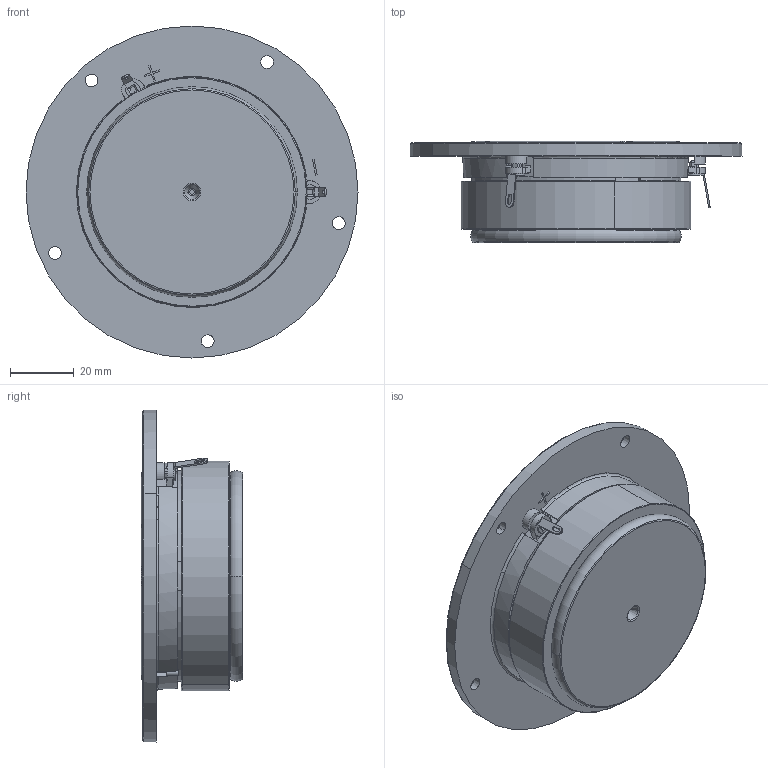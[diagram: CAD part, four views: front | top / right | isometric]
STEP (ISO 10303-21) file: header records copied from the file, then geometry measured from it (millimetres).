
FILE_DESCRIPTION (( 'STEP AP214' ), '1' );
FILE_NAME ('D2606-920000.STEP', '2020-10-22T06:04:21', ( '' ), ( '' ), 'SwSTEP 2.0', 'SolidWorks 2019', '' );
FILE_SCHEMA (( 'AUTOMOTIVE_DESIGN' ));
Length unit declared in the file: millimetre
Products named in the file (1): D2606-920000
Bounding box: 104 x 31.74 x 104 mm (x, y, z)
Volume: 135754.4 mm3; surface area: 29082.2 mm2
Topology: 2 solids, 7 shells, 398 faces, 1010 edges, 635 vertices
Faces by surface type: plane 137, cylinder 119, cone 66, torus 52, sphere 24
Entity records: 16863 total; most frequent: CARTESIAN_POINT 2860, DIRECTION 2181, ORIENTED_EDGE 2004, EDGE_CURVE 1002, AXIS2_PLACEMENT_3D 882, VERTEX_POINT 635, CIRCLE 483, EDGE_LOOP 445
